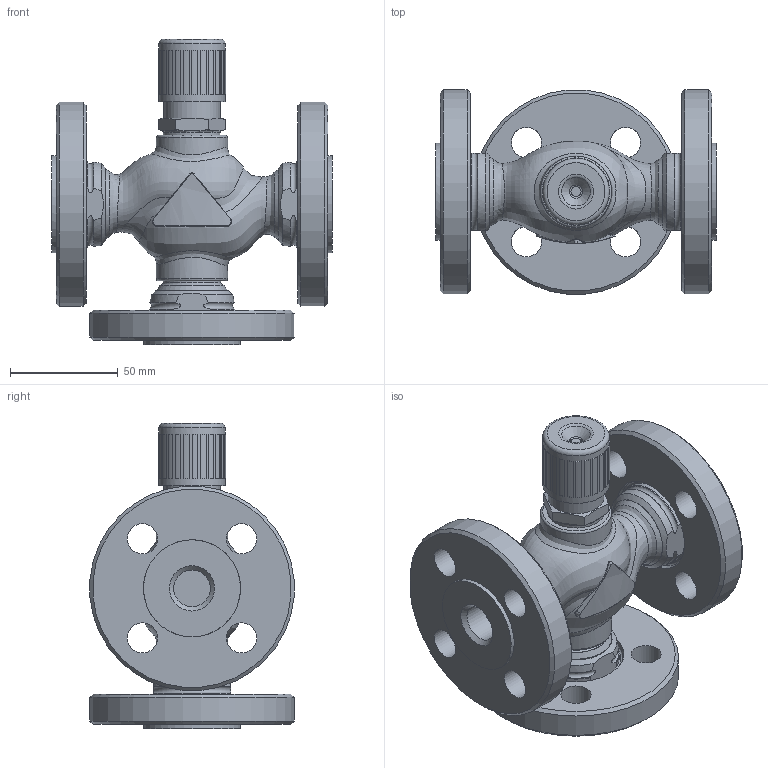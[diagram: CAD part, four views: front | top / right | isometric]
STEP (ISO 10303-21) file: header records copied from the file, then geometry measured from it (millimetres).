
FILE_DESCRIPTION(/* description */ (''),/* implementation_level */ '2;1');
FILE_NAME(/* name */ 'rv111r_dn15_3_F.stp',/* time_stamp */ '2012-02-21T11:10:09+01:00',/* author */ ('KLIMES'),/* organization */ ('LDM'),/* preprocessor_version */ 'ST-DEVELOPER v11',/* originating_system */ 'SIEMENS PLM Software NX 7.0',/* authorisation */ '');
FILE_SCHEMA (('CONFIG_CONTROL_DESIGN'));
Length unit declared in the file: millimetre
Products named in the file (1): klim56BEqbg3
Bounding box: 130 x 94.64 x 141.45 mm (x, y, z)
Volume: 451705.8 mm3; surface area: 96430.3 mm2
Topology: 5 solids, 5 shells, 334 faces, 777 edges, 500 vertices
Faces by surface type: plane 152, cone 76, cylinder 55, bspline 27, torus 24
Full cylindrical faces by diameter (mm): 8 x1, 14 x12, 17 x3, 23.4 x1, 24.117 x1, 26 x1, 26.5 x2, 30.291 x3, 30.8 x1, 33 x2, 33.249 x3, 33.5 x3, 45 x3, 95 x3
Entity records: 14733 total; most frequent: CARTESIAN_POINT 7643, DIRECTION 1452, ORIENTED_EDGE 1290, EDGE_CURVE 645, AXIS2_PLACEMENT_3D 609, EDGE_LOOP 505, VERTEX_POINT 462, ADVANCED_FACE 334
